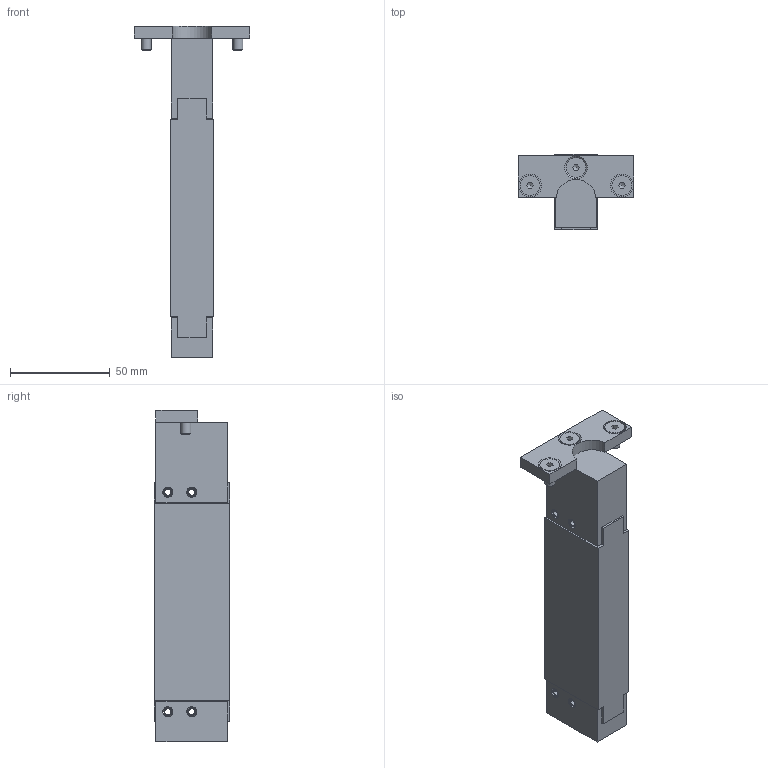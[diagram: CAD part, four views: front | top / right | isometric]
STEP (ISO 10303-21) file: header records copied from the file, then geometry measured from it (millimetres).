
FILE_DESCRIPTION(/* description */ ('DIE LIFTER'),/* implementation_level */ '2;1');
FILE_NAME(/* name */ 'S:\EASCN Vault\Designs\Standard Part\DIE LIFTERS\EHB\EHB- 3D step\EHB22 - 3D step complete serie\EHB 22-03.stp',/* time_stamp */ '2019-11-21T13:23:52+08:00',/* author */ ('yue.yang'),/* organization */ (''),/* preprocessor_version */ 'ST-DEVELOPER v17',/* originating_system */ 'Autodesk Inventor 2019',/* authorisation */ '');
FILE_SCHEMA (('AUTOMOTIVE_DESIGN { 1 0 10303 214 3 1 1 }'));
Length unit declared in the file: millimetre
Products named in the file (2): EHB 22-03; EHB 22-03_Substitute_1
Assembly tree (1 placements, depth 2):
  EHB 22-03
    EHB 22-03_Substitute_1
Bounding box: 58 x 37.8 x 166 mm (x, y, z)
Volume: 109223 mm3; surface area: 50089.8 mm2
Topology: 21 solids, 21 shells, 242 faces, 635 edges, 439 vertices
Faces by surface type: plane 116, cylinder 67, cone 41, torus 15, sphere 3
Full cylindrical faces by diameter (mm): 3 x2, 4.134 x1, 5 x15, 5.5 x4, 6 x4, 6.647 x1, 8 x1, 10 x6, 12.2 x3, 16 x3, 16.4 x3, 17.05 x3, 19.05 x3, 19.2 x3
Entity records: 8365 total; most frequent: CARTESIAN_POINT 1802, DIRECTION 1340, ORIENTED_EDGE 1242, EDGE_CURVE 621, AXIS2_PLACEMENT_3D 527, VERTEX_POINT 439, EDGE_LOOP 306, LINE 286
